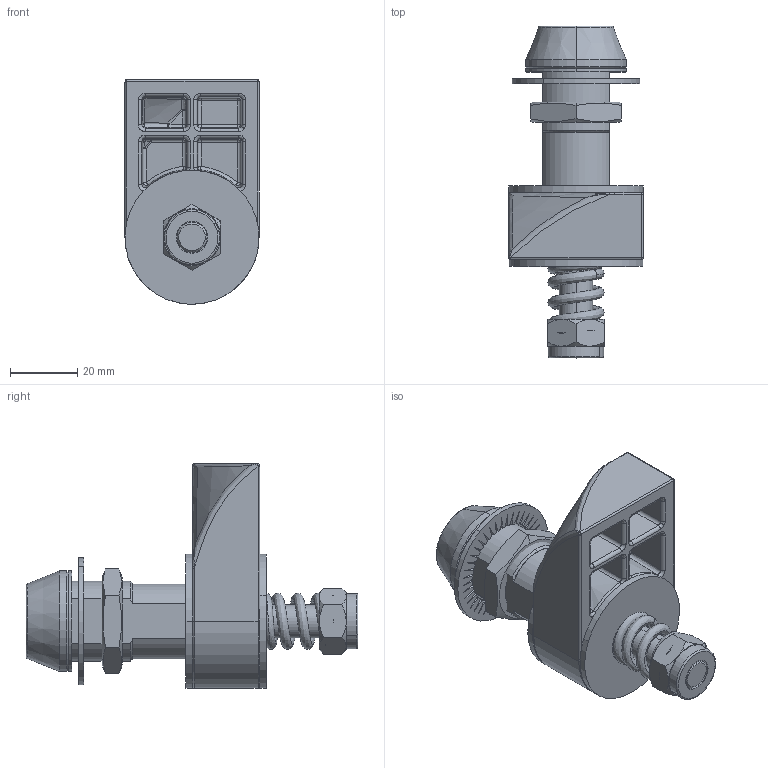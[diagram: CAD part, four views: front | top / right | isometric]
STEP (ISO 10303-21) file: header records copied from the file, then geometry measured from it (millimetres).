
FILE_DESCRIPTION (( 'STEP AP214' ), '1' );
FILE_NAME ('M24C - BT - SN.STEP', '2017-11-09T10:02:37', ( '' ), ( '' ), 'SwSTEP 2.0', 'SolidWorks 2015', '' );
FILE_SCHEMA (( 'AUTOMOTIVE_DESIGN' ));
Length unit declared in the file: millimetre
Products named in the file (12): DIN 982_M10-A2; 5.B02.557.001.07_A; 5.B02.557.001.01_B; 5.B02.557.001.06_A; 5.B02.557.001.05_A; 5.B02.557.001.04_A; 5.B02.557.001.03_A; 5.B02.557.001.02_A; M24C - BT - SN; DIN 6798 J_M24 - A2; 2.IP65.005_A; O-RING 9,1x1,6_A
Assembly tree (14 placements, depth 2):
  M24C - BT - SN
    5.B02.557.001.02_A
    5.B02.557.001.03_A
    5.B02.557.001.04_A
    5.B02.557.001.05_A
    5.B02.557.001.06_A
    5.B02.557.001.01_B
    5.B02.557.001.07_A
    DIN 982_M10-A2
    O-RING 9,1x1,6_A  x4
    2.IP65.005_A
    DIN 6798 J_M24 - A2
Bounding box: 40 x 99 x 67 mm (x, y, z)
Volume: 72395.9 mm3; surface area: 35663.3 mm2
Topology: 15 solids, 15 shells, 535 faces, 1325 edges, 820 vertices
Faces by surface type: plane 259, cylinder 125, cone 49, bspline 49, torus 28, sphere 25
Entity records: 19942 total; most frequent: CARTESIAN_POINT 7471, ORIENTED_EDGE 2590, DIRECTION 2432, EDGE_CURVE 1295, AXIS2_PLACEMENT_3D 948, VERTEX_POINT 808, EDGE_LOOP 555, VECTOR 536
